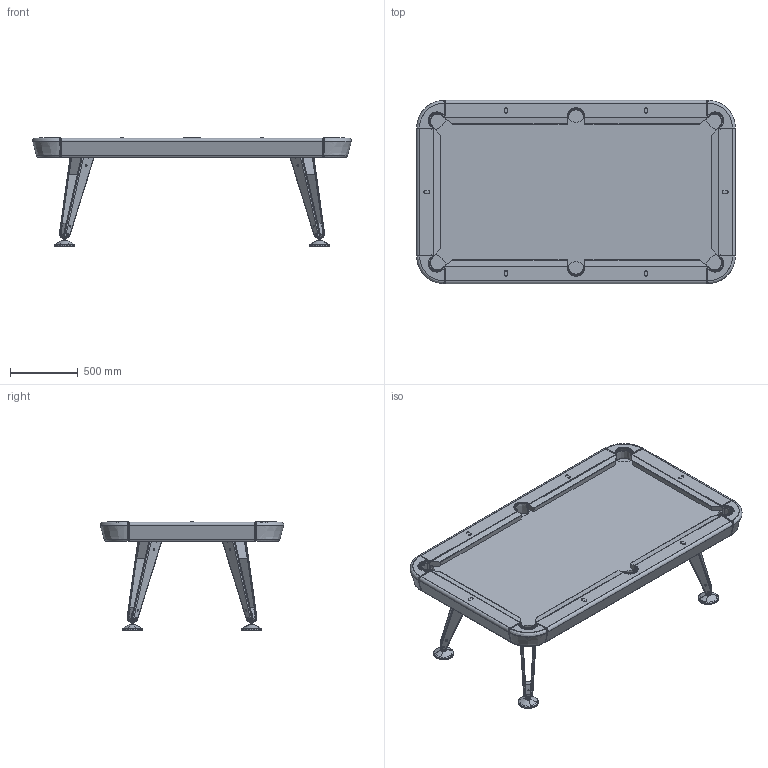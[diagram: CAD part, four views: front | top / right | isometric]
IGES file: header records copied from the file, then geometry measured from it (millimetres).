
Start section: START RECORD GO HERE.
Global section: file name: diagonal_pool_7.igs; native system: DASSAULT SYSTEMES CATIA Version 5-6 Release 2017 - www.3ds.com; preprocessor: V5-6R2017_5.27.0.0.10-19-2016.20.00; author: RAFA; organization: RAFA-PC; date: 20181017.162454; units: millimetre
Bounding box: 2354.47 x 1354.47 x 801 mm (x, y, z)
Surface area: 14891053.6 mm2 (no closed solid volume)
Topology: 0 solids, 0 shells, 4378 faces, 21252 edges, 21164 vertices
Faces by surface type: revolution 2117, plane 2069, bspline 192
